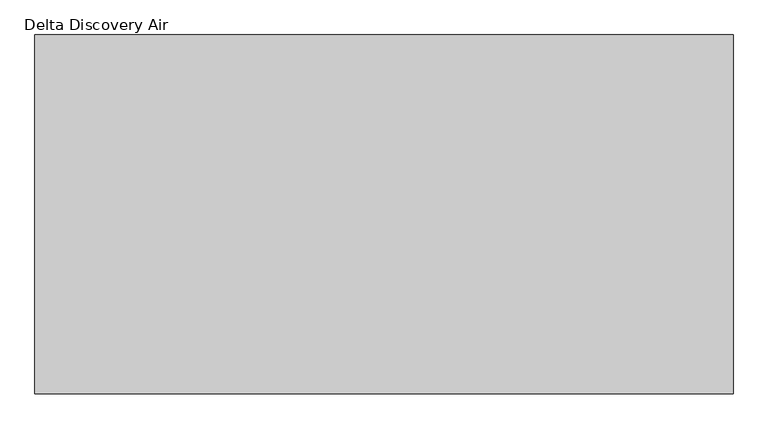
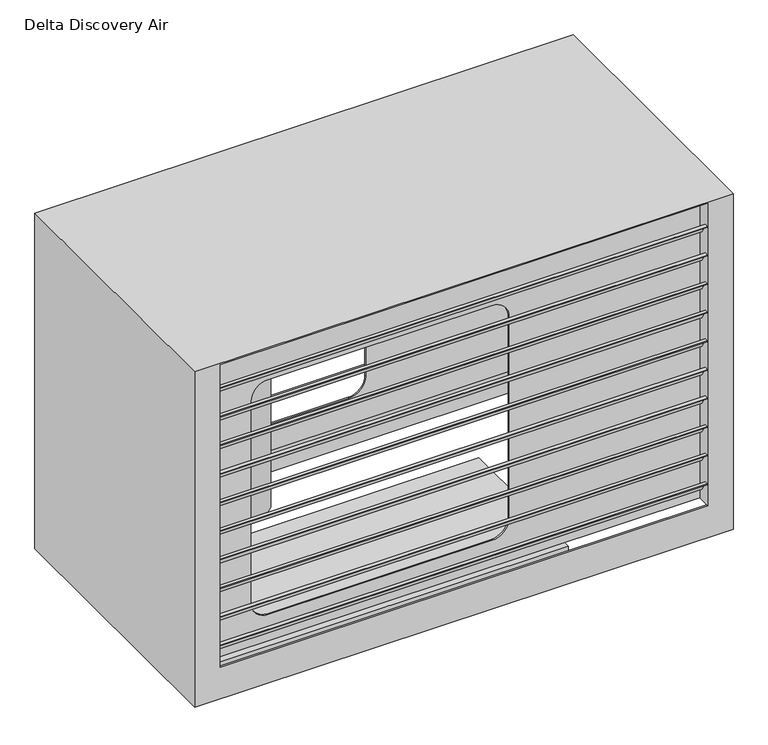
"""IFC4 building model written with IfcOpenShell, lengths in millimetres: unitary equipment geometry, M&G_5-_GM_WPB_Delta Discovery Air_BERSnl : Delta Discovery Air."""

from ifc_helpers import new_model, si_unit, point, frame, frame_2d, origin, place, context, project, spatial, polyline, circle_curve, trimmed, segment, composite_curve, outline, extrude, source, transform, mapped, element, save
from ifc_brep_helpers import plane_surface, revolved_surface, advanced_brep


def delta_discovery_air_bdbf6794(model_context):
    return source(origin(), model_context, "Body", "SolidModel", [
        extrude(outline(polyline([(-806.0, 996.057421), (-806.0, 998.057421), (-795.1452995, 998.057421), (-777.4452995, 967.4001217), (-767.8, 967.4001217), (-767.8, 965.4001217), (-778.6, 965.4001217), (-796.3, 996.057421), (-806.0, 996.057421)])), frame((-709.0, 0.0, 0.0), z_axis=(1.0, 0.0, 0.0), x_axis=(0.0, 1.0, 0.0)), (0.0, 0.0, 1.0), 1418.0),
        extrude(outline(polyline([(-806.0, 908.0193431), (-806.0, 910.0193431), (-795.1452995, 910.0193431), (-777.4452995, 879.3620438), (-767.8, 879.3620438), (-767.8, 877.3620438), (-778.6, 877.3620438), (-796.3, 908.0193431), (-806.0, 908.0193431)])), frame((-709.0, 0.0, 0.0), z_axis=(1.0, 0.0, 0.0), x_axis=(0.0, 1.0, 0.0)), (0.0, 0.0, 1.0), 1418.0),
        extrude(outline(polyline([(-806.0, 819.9812653), (-806.0, 821.9812653), (-795.1452995, 821.9812653), (-777.4452995, 791.323966), (-767.8, 791.323966), (-767.8, 789.323966), (-778.6, 789.323966), (-796.3, 819.9812653), (-806.0, 819.9812653)])), frame((-709.0, 0.0, 0.0), z_axis=(1.0, 0.0, 0.0), x_axis=(0.0, 1.0, 0.0)), (0.0, 0.0, 1.0), 1418.0),
        extrude(outline(polyline([(-806.0, 731.9431874), (-806.0, 733.9431874), (-795.1452995, 733.9431874), (-777.4452995, 703.2858881), (-767.8, 703.2858881), (-767.8, 701.2858881), (-778.6, 701.2858881), (-796.3, 731.9431874), (-806.0, 731.9431874)])), frame((-709.0, 0.0, 0.0), z_axis=(1.0, 0.0, 0.0), x_axis=(0.0, 1.0, 0.0)), (0.0, 0.0, 1.0), 1418.0),
        extrude(outline(polyline([(-806.0, 643.9051095), (-806.0, 645.9051095), (-795.1452995, 645.9051095), (-777.4452995, 615.2478102), (-767.8, 615.2478102), (-767.8, 613.2478102), (-778.6, 613.2478102), (-796.3, 643.9051095), (-806.0, 643.9051095)])), frame((-709.0, 0.0, 0.0), z_axis=(1.0, 0.0, 0.0), x_axis=(0.0, 1.0, 0.0)), (0.0, 0.0, 1.0), 1418.0),
        extrude(outline(polyline([(-806.0, 555.8670317), (-806.0, 557.8670317), (-795.1452995, 557.8670317), (-777.4452995, 527.2097324), (-767.8, 527.2097324), (-767.8, 525.2097324), (-778.6, 525.2097324), (-796.3, 555.8670317), (-806.0, 555.8670317)])), frame((-709.0, 0.0, 0.0), z_axis=(1.0, 0.0, 0.0), x_axis=(0.0, 1.0, 0.0)), (0.0, 0.0, 1.0), 1418.0),
        extrude(outline(polyline([(-806.0, 467.8289538), (-806.0, 469.8289538), (-795.1452995, 469.8289538), (-777.4452995, 439.1716545), (-767.8, 439.1716545), (-767.8, 437.1716545), (-778.6, 437.1716545), (-796.3, 467.8289538), (-806.0, 467.8289538)])), frame((-709.0, 0.0, 0.0), z_axis=(1.0, 0.0, 0.0), x_axis=(0.0, 1.0, 0.0)), (0.0, 0.0, 1.0), 1418.0),
        extrude(outline(polyline([(-806.0, 379.790876), (-806.0, 381.790876), (-795.1452995, 381.790876), (-777.4452995, 351.1335767), (-767.8, 351.1335767), (-767.8, 349.1335767), (-778.6, 349.1335767), (-796.3, 379.790876), (-806.0, 379.790876)])), frame((-709.0, 0.0, 0.0), z_axis=(1.0, 0.0, 0.0), x_axis=(0.0, 1.0, 0.0)), (0.0, 0.0, 1.0), 1418.0),
        extrude(outline(polyline([(-806.0, 1084.0954988), (-806.0, 1086.0954988), (-795.1452995, 1086.0954988), (-777.4452995, 1055.4381995), (-767.8, 1055.4381995), (-767.8, 1053.4381995), (-778.6, 1053.4381995), (-796.3, 1084.0954988), (-806.0, 1084.0954988)])), frame((-709.0, 0.0, 0.0), z_axis=(1.0, 0.0, 0.0), x_axis=(0.0, 1.0, 0.0)), (0.0, 0.0, 1.0), 1418.0),
        extrude(outline(polyline([(-38.2, 996.057421), (-38.2, 998.057421), (-27.3452995, 998.057421), (-9.6452995, 967.4001217), (0.0, 967.4001217), (0.0, 965.4001217), (-10.8, 965.4001217), (-28.5, 996.057421), (-38.2, 996.057421)])), frame((-709.0, 0.0, 0.0), z_axis=(1.0, 0.0, 0.0), x_axis=(0.0, 1.0, 0.0)), (0.0, 0.0, 1.0), 1418.0),
        extrude(outline(polyline([(-38.2, 908.0193431), (-38.2, 910.0193431), (-27.3452995, 910.0193431), (-9.6452995, 879.3620438), (0.0, 879.3620438), (0.0, 877.3620438), (-10.8, 877.3620438), (-28.5, 908.0193431), (-38.2, 908.0193431)])), frame((-709.0, 0.0, 0.0), z_axis=(1.0, 0.0, 0.0), x_axis=(0.0, 1.0, 0.0)), (0.0, 0.0, 1.0), 1418.0),
        extrude(outline(polyline([(-38.2, 819.9812653), (-38.2, 821.9812653), (-27.3452995, 821.9812653), (-9.6452995, 791.323966), (0.0, 791.323966), (0.0, 789.323966), (-10.8, 789.323966), (-28.5, 819.9812653), (-38.2, 819.9812653)])), frame((-709.0, 0.0, 0.0), z_axis=(1.0, 0.0, 0.0), x_axis=(0.0, 1.0, 0.0)), (0.0, 0.0, 1.0), 1418.0),
        extrude(outline(polyline([(-38.2, 731.9431874), (-38.2, 733.9431874), (-27.3452995, 733.9431874), (-9.6452995, 703.2858881), (0.0, 703.2858881), (0.0, 701.2858881), (-10.8, 701.2858881), (-28.5, 731.9431874), (-38.2, 731.9431874)])), frame((-709.0, 0.0, 0.0), z_axis=(1.0, 0.0, 0.0), x_axis=(0.0, 1.0, 0.0)), (0.0, 0.0, 1.0), 1418.0),
        extrude(outline(polyline([(-38.2, 643.9051095), (-38.2, 645.9051095), (-27.3452995, 645.9051095), (-9.6452995, 615.2478102), (0.0, 615.2478102), (0.0, 613.2478102), (-10.8, 613.2478102), (-28.5, 643.9051095), (-38.2, 643.9051095)])), frame((-709.0, 0.0, 0.0), z_axis=(1.0, 0.0, 0.0), x_axis=(0.0, 1.0, 0.0)), (0.0, 0.0, 1.0), 1418.0),
        extrude(outline(polyline([(-38.2, 555.8670317), (-38.2, 557.8670317), (-27.3452995, 557.8670317), (-9.6452995, 527.2097324), (0.0, 527.2097324), (0.0, 525.2097324), (-10.8, 525.2097324), (-28.5, 555.8670317), (-38.2, 555.8670317)])), frame((-709.0, 0.0, 0.0), z_axis=(1.0, 0.0, 0.0), x_axis=(0.0, 1.0, 0.0)), (0.0, 0.0, 1.0), 1418.0),
        extrude(outline(polyline([(-38.2, 467.8289538), (-38.2, 469.8289538), (-27.3452995, 469.8289538), (-9.6452995, 439.1716545), (0.0, 439.1716545), (0.0, 437.1716545), (-10.8, 437.1716545), (-28.5, 467.8289538), (-38.2, 467.8289538)])), frame((-709.0, 0.0, 0.0), z_axis=(1.0, 0.0, 0.0), x_axis=(0.0, 1.0, 0.0)), (0.0, 0.0, 1.0), 1418.0),
        extrude(outline(polyline([(-38.2, 379.790876), (-38.2, 381.790876), (-27.3452995, 381.790876), (-9.6452995, 351.1335767), (0.0, 351.1335767), (0.0, 349.1335767), (-10.8, 349.1335767), (-28.5, 379.790876), (-38.2, 379.790876)])), frame((-709.0, 0.0, 0.0), z_axis=(1.0, 0.0, 0.0), x_axis=(0.0, 1.0, 0.0)), (0.0, 0.0, 1.0), 1418.0),
        extrude(outline(polyline([(-38.2, 1084.0954988), (-38.2, 1086.0954988), (-27.3452995, 1086.0954988), (-9.6452995, 1055.4381995), (0.0, 1055.4381995), (0.0, 1053.4381995), (-10.8, 1053.4381995), (-28.5, 1084.0954988), (-38.2, 1084.0954988)])), frame((-709.0, 0.0, 0.0), z_axis=(1.0, 0.0, 0.0), x_axis=(0.0, 1.0, 0.0)), (0.0, 0.0, 1.0), 1418.0),
        extrude(outline(polyline([(-38.2, 291.7527981), (-38.2, 293.7527981), (-27.3452995, 293.7527981), (-9.6452995, 263.0954988), (0.0, 263.0954988), (0.0, 261.0954988), (-10.8, 261.0954988), (-28.5, 291.7527981), (-38.2, 291.7527981)])), frame((-709.0, 0.0, 0.0), z_axis=(1.0, 0.0, 0.0), x_axis=(0.0, 1.0, 0.0)), (0.0, 0.0, 1.0), 1418.0),
        extrude(outline(polyline([(-806.0, 291.7527981), (-806.0, 293.7527981), (-795.1452995, 293.7527981), (-777.4452995, 263.0954988), (-767.8, 263.0954988), (-767.8, 261.0954988), (-778.6, 261.0954988), (-796.3, 291.7527981), (-806.0, 291.7527981)])), frame((-709.0, 0.0, 0.0), z_axis=(1.0, 0.0, 0.0), x_axis=(0.0, 1.0, 0.0)), (0.0, 0.0, 1.0), 1418.0),
        extrude(outline(polyline([(-700.0, -293.0), (340.0, -293.0), (340.0, -743.0), (-700.0, -743.0), (-700.0, -293.0)])), frame((0.0, 0.0, 120.0954988), z_axis=(0.0, 0.0, 1.0), x_axis=(1.0, 0.0, 0.0)), (0.0, 0.0, 1.0), 72.0),
        advanced_brep(
        [(-784.0, 0.0, 1161.0954988), (-784.0, -806.0, 1161.0954988), (784.0, -806.0, 1161.0954988), (784.0, 0.0, 1161.0954988), (-710.0, -40.0, 226.0954988), (710.0, -40.0, 226.0954988), (710.0, -4.0, 226.0954988), (714.0, -4.0, 226.0954988), (714.0, -44.0, 226.0954988), (-714.0, -44.0, 226.0954988), (-714.0, -4.0, 226.0954988), (-710.0, -4.0, 226.0954988), (710.0, -766.0, 226.0954988), (-710.0, -766.0, 226.0954988), (-710.0, -802.0, 226.0954988), (-714.0, -802.0, 226.0954988), (-714.0, -762.0, 226.0954988), (714.0, -762.0, 226.0954988), (714.0, -802.0, 226.0954988), (710.0, -802.0, 226.0954988), (-784.0, 0.0, 128.0954988), (-784.0, -806.0, 128.0954988), (784.0, -806.0, 128.0954988), (710.0, -806.0, 1157.0954988), (710.0, -806.0, 226.0954988), (-710.0, -806.0, 226.0954988), (-710.0, -806.0, 1157.0954988), (784.0, 0.0, 128.0954988), (-710.0, -766.0, 1157.0954988), (710.0, -766.0, 1157.0954988), (-546.0, -766.0, 1030.0954988), (104.0, -766.0, 1030.0954988), (154.0, -766.0, 980.0954988), (154.0, -766.0, 357.0954988), (104.0, -766.0, 307.0954988), (-546.0, -766.0, 307.0954988), (-596.0, -766.0, 357.0954988), (-596.0, -766.0, 980.0954988), (710.0, 0.0, 226.0954988), (710.0, 0.0, 1157.0954988), (-710.0, 0.0, 1157.0954988), (-710.0, 0.0, 226.0954988), (710.0, -40.0, 1157.0954988), (-710.0, -40.0, 1157.0954988), (104.0, -40.0, 1030.0954988), (-546.0, -40.0, 1030.0954988), (-596.0, -40.0, 980.0954988), (-596.0, -40.0, 357.0954988), (-546.0, -40.0, 307.0954988), (104.0, -40.0, 307.0954988), (154.0, -40.0, 357.0954988), (154.0, -40.0, 980.0954988), (-780.0, -802.0, 128.0954988), (-780.0, -4.0, 128.0954988), (-780.0, -4.0, 1157.0954988), (-780.0, -802.0, 1157.0954988), (780.0, -4.0, 128.0954988), (780.0, -4.0, 1157.0954988), (714.0, -4.0, 1157.0954988), (-714.0, -4.0, 1157.0954988), (-714.0, -44.0, 1157.0954988), (714.0, -44.0, 1157.0954988), (-546.0, -44.0, 1030.0954988), (104.0, -44.0, 1030.0954988), (154.0, -44.0, 980.0954988), (154.0, -44.0, 357.0954988), (104.0, -44.0, 307.0954988), (-546.0, -44.0, 307.0954988), (-596.0, -44.0, 357.0954988), (-596.0, -44.0, 980.0954988), (780.0, -802.0, 128.0954988), (780.0, -802.0, 1157.0954988), (-714.0, -802.0, 1157.0954988), (714.0, -802.0, 1157.0954988), (714.0, -762.0, 1157.0954988), (-714.0, -762.0, 1157.0954988), (104.0, -762.0, 1030.0954988), (-546.0, -762.0, 1030.0954988), (-596.0, -762.0, 980.0954988), (-596.0, -762.0, 357.0954988), (-546.0, -762.0, 307.0954988), (104.0, -762.0, 307.0954988), (154.0, -762.0, 357.0954988), (154.0, -762.0, 980.0954988)],
        [
            (0, 1),
            (1, 2),
            (2, 3),
            (3, 0),
            (4, 5),
            (5, 6),
            (6, 7),
            (7, 8),
            (8, 9),
            (9, 10),
            (10, 11),
            (11, 4),
            (12, 13),
            (13, 14),
            (14, 15),
            (15, 16),
            (16, 17),
            (17, 18),
            (18, 19),
            (19, 12),
            (0, 20),
            (20, 21),
            (21, 1),
            (21, 22),
            (22, 2),
            (23, 24),
            (24, 25),
            (25, 26),
            (26, 23),
            (22, 27),
            (27, 3),
            (25, 14),
            (13, 28),
            (28, 26),
            (12, 29),
            (29, 28),
            (30, 31),
            (31, 32, circle_curve(frame((104.0, -766.0, 980.0954988), z_axis=(0.0, 1.0, 0.0), x_axis=(1.0, 0.0, 0.0)), 50.0)),
            (32, 33),
            (33, 34, circle_curve(frame((104.0, -766.0, 357.0954988), z_axis=(0.0, 1.0, 0.0), x_axis=(1.0, 0.0, 0.0)), 50.0)),
            (34, 35),
            (35, 36, circle_curve(frame((-546.0, -766.0, 357.0954988), z_axis=(0.0, 1.0, 0.0), x_axis=(1.0, 0.0, 0.0)), 50.0)),
            (36, 37),
            (37, 30, circle_curve(frame((-546.0, -766.0, 980.0954988), z_axis=(0.0, 1.0, 0.0), x_axis=(1.0, 0.0, 0.0)), 50.0)),
            (23, 29),
            (19, 24),
            (27, 20),
            (38, 39),
            (39, 40),
            (40, 41),
            (41, 38),
            (38, 6),
            (5, 42),
            (42, 39),
            (4, 43),
            (43, 42),
            (44, 45),
            (45, 46, circle_curve(frame((-546.0, -40.0, 980.0954988), z_axis=(0.0, -1.0, 0.0), x_axis=(1.0, 0.0, 0.0)), 50.0)),
            (46, 47),
            (47, 48, circle_curve(frame((-546.0, -40.0, 357.0954988), z_axis=(0.0, -1.0, 0.0), x_axis=(1.0, 0.0, 0.0)), 50.0)),
            (48, 49),
            (49, 50, circle_curve(frame((104.0, -40.0, 357.0954988), z_axis=(0.0, -1.0, 0.0), x_axis=(1.0, 0.0, 0.0)), 50.0)),
            (50, 51),
            (51, 44, circle_curve(frame((104.0, -40.0, 980.0954988), z_axis=(0.0, -1.0, 0.0), x_axis=(1.0, 0.0, 0.0)), 50.0)),
            (11, 41),
            (40, 43),
            (52, 53),
            (53, 54),
            (54, 55),
            (55, 52),
            (53, 56),
            (56, 57),
            (57, 58),
            (58, 7),
            (6, 11),
            (10, 59),
            (59, 54),
            (9, 60),
            (60, 59),
            (8, 61),
            (61, 60),
            (62, 63),
            (63, 64, circle_curve(frame((104.0, -44.0, 980.0954988), z_axis=(0.0, 1.0, 0.0), x_axis=(1.0, 0.0, 0.0)), 50.0)),
            (64, 65),
            (65, 66, circle_curve(frame((104.0, -44.0, 357.0954988), z_axis=(0.0, 1.0, 0.0), x_axis=(1.0, 0.0, 0.0)), 50.0)),
            (66, 67),
            (67, 68, circle_curve(frame((-546.0, -44.0, 357.0954988), z_axis=(0.0, 1.0, 0.0), x_axis=(1.0, 0.0, 0.0)), 50.0)),
            (68, 69),
            (69, 62, circle_curve(frame((-546.0, -44.0, 980.0954988), z_axis=(0.0, 1.0, 0.0), x_axis=(1.0, 0.0, 0.0)), 50.0)),
            (58, 61),
            (56, 70),
            (70, 71),
            (71, 57),
            (70, 52),
            (55, 72),
            (72, 15),
            (14, 19),
            (18, 73),
            (73, 71),
            (17, 74),
            (74, 73),
            (16, 75),
            (75, 74),
            (76, 77),
            (77, 78, circle_curve(frame((-546.0, -762.0, 980.0954988), z_axis=(0.0, -1.0, 0.0), x_axis=(1.0, 0.0, 0.0)), 50.0)),
            (78, 79),
            (79, 80, circle_curve(frame((-546.0, -762.0, 357.0954988), z_axis=(0.0, -1.0, 0.0), x_axis=(1.0, 0.0, 0.0)), 50.0)),
            (80, 81),
            (81, 82, circle_curve(frame((104.0, -762.0, 357.0954988), z_axis=(0.0, -1.0, 0.0), x_axis=(1.0, 0.0, 0.0)), 50.0)),
            (82, 83),
            (83, 76, circle_curve(frame((104.0, -762.0, 980.0954988), z_axis=(0.0, -1.0, 0.0), x_axis=(1.0, 0.0, 0.0)), 50.0)),
            (72, 75),
            (44, 63),
            (62, 45),
            (76, 31),
            (30, 77),
            (69, 46),
            (37, 78),
            (68, 47),
            (36, 79),
            (67, 48),
            (35, 80),
            (66, 49),
            (34, 81),
            (65, 50),
            (33, 82),
            (64, 51),
            (32, 83),
        ],
        [
            plane_surface(frame((-784.0, -806.0, 1161.0954988), z_axis=(0.0, 0.0, 1.0), x_axis=(0.0, -1.0, 0.0))),
            plane_surface(frame((-784.0, -806.0, 226.0954988), z_axis=(0.0, 0.0, -1.0), x_axis=(0.0, 1.0, 0.0))),
            plane_surface(frame((-784.0, 0.0, 1161.0954988), z_axis=(-1.0, 0.0, 0.0), x_axis=(0.0, 0.0, -1.0))),
            plane_surface(frame((710.0, -806.0, 1161.0954988), z_axis=(0.0, -1.0, 0.0), x_axis=(0.0, 0.0, -1.0))),
            plane_surface(frame((784.0, -806.0, 1161.0954988), z_axis=(1.0, 0.0, 0.0), x_axis=(0.0, 0.0, -1.0))),
            plane_surface(frame((-710.0, -806.0, 1161.0954988), z_axis=(1.0, 0.0, 0.0), x_axis=(0.0, 0.0, -1.0))),
            plane_surface(frame((-710.0, -766.0, 1161.0954988), z_axis=(0.0, -1.0, 0.0), x_axis=(0.0, 0.0, -1.0))),
            plane_surface(frame((710.0, -766.0, 1161.0954988), z_axis=(-1.0, 0.0, 0.0), x_axis=(0.0, 0.0, -1.0))),
            plane_surface(frame((784.0, 0.0, 1161.0954988), z_axis=(0.0, 1.0, 0.0), x_axis=(0.0, 0.0, -1.0))),
            plane_surface(frame((710.0, 0.0, 1161.0954988), z_axis=(-1.0, 0.0, 0.0), x_axis=(0.0, 0.0, -1.0))),
            plane_surface(frame((710.0, -40.0, 1161.0954988), z_axis=(0.0, 1.0, 0.0), x_axis=(0.0, 0.0, -1.0))),
            plane_surface(frame((-710.0, -40.0, 1161.0954988), z_axis=(1.0, 0.0, 0.0), x_axis=(0.0, 0.0, -1.0))),
            plane_surface(frame((-780.0, -802.0, 1161.0954988), z_axis=(1.0, 0.0, 0.0), x_axis=(0.0, 0.0, -1.0))),
            plane_surface(frame((-780.0, -4.0, 1161.0954988), z_axis=(0.0, -1.0, 0.0), x_axis=(0.0, 0.0, -1.0))),
            plane_surface(frame((-714.0, -4.0, 1161.0954988), z_axis=(-1.0, 0.0, 0.0), x_axis=(0.0, 0.0, -1.0))),
            plane_surface(frame((-714.0, -44.0, 1161.0954988), z_axis=(0.0, -1.0, 0.0), x_axis=(0.0, 0.0, -1.0))),
            plane_surface(frame((714.0, -44.0, 1161.0954988), z_axis=(1.0, 0.0, 0.0), x_axis=(0.0, 0.0, -1.0))),
            plane_surface(frame((780.0, -4.0, 1161.0954988), z_axis=(-1.0, 0.0, 0.0), x_axis=(0.0, 0.0, -1.0))),
            plane_surface(frame((780.0, -802.0, 1161.0954988), z_axis=(0.0, 1.0, 0.0), x_axis=(0.0, 0.0, -1.0))),
            plane_surface(frame((714.0, -802.0, 1161.0954988), z_axis=(1.0, 0.0, 0.0), x_axis=(0.0, 0.0, -1.0))),
            plane_surface(frame((714.0, -762.0, 1161.0954988), z_axis=(0.0, 1.0, 0.0), x_axis=(0.0, 0.0, -1.0))),
            plane_surface(frame((-714.0, -762.0, 1161.0954988), z_axis=(-1.0, 0.0, 0.0), x_axis=(0.0, 0.0, -1.0))),
            plane_surface(frame((104.0, -973.4559026, 1030.0954988), z_axis=(0.0, 0.0, -1.0), x_axis=(0.0, 1.0, 0.0))),
            revolved_surface(polyline([(-496.0, -44.0, 980.0954988), (-496.0, -40.0, 980.0954988)]), (-546.0, 100.0, 980.0954988), (0.0, -1.0, 0.0)),
            revolved_surface(polyline([(-496.0, -766.0, 980.0954988), (-496.0, -762.0, 980.0954988)]), (-546.0, 100.0, 980.0954988), (0.0, -1.0, 0.0)),
            plane_surface(frame((-596.0, -973.4559026, 980.0954988), z_axis=(1.0, 0.0, 0.0), x_axis=(0.0, 1.0, 0.0))),
            revolved_surface(polyline([(-496.0, -44.0, 357.0954988), (-496.0, -40.0, 357.0954988)]), (-546.0, 100.0, 357.0954988), (0.0, -1.0, 0.0)),
            revolved_surface(polyline([(-496.0, -766.0, 357.0954988), (-496.0, -762.0, 357.0954988)]), (-546.0, 100.0, 357.0954988), (0.0, -1.0, 0.0)),
            plane_surface(frame((-546.0, -973.4559026, 307.0954988), z_axis=(0.0, 0.0, 1.0), x_axis=(0.0, 1.0, 0.0))),
            revolved_surface(polyline([(154.0, -44.0, 357.0954988), (154.0, -40.0, 357.0954988)]), (104.0, 100.0, 357.0954988), (0.0, -1.0, 0.0)),
            revolved_surface(polyline([(154.0, -766.0, 357.0954988), (154.0, -762.0, 357.0954988)]), (104.0, 100.0, 357.0954988), (0.0, -1.0, 0.0)),
            plane_surface(frame((154.0, -973.4559026, 357.0954988), z_axis=(-1.0, 0.0, 0.0), x_axis=(0.0, 1.0, 0.0))),
            revolved_surface(polyline([(154.0, -44.0, 980.0954988), (154.0, -40.0, 980.0954988)]), (104.0, 100.0, 980.0954988), (0.0, -1.0, 0.0)),
            revolved_surface(polyline([(154.0, -766.0, 980.0954988), (154.0, -762.0, 980.0954988)]), (104.0, 100.0, 980.0954988), (0.0, -1.0, 0.0)),
            plane_surface(frame((-784.0, 0.0, 1157.0954988), z_axis=(0.0, 0.0, -1.0), x_axis=(1.0, 0.0, 0.0))),
            plane_surface(frame((-784.0, -806.0, 128.0954988), z_axis=(0.0, 0.0, -1.0), x_axis=(0.0, 1.0, 0.0))),
            plane_surface(frame((-784.0, -806.0, 226.0954988), z_axis=(0.0, 0.0, 1.0), x_axis=(0.0, -1.0, 0.0))),
        ],
        [
            (0, [[1, 2, 3, 4]]),
            (1, [[5, 6, 7, 8, 9, 10, 11, 12]]),
            (1, [[13, 14, 15, 16, 17, 18, 19, 20]]),
            (2, [[-1, 21, 22, 23]]),
            (3, [[-23, 24, 25, -2], [26, 27, 28, 29]]),
            (4, [[-3, -25, 30, 31]]),
            (5, [[-28, 32, -14, 33, 34]]),
            (6, [[-13, 35, 36, -33], [37, 38, 39, 40, 41, 42, 43, 44]]),
            (7, [[-26, 45, -35, -20, 46]]),
            (8, [[-31, 47, -21, -4], [48, 49, 50, 51]]),
            (9, [[-48, 52, -6, 53, 54]]),
            (10, [[-5, 55, 56, -53], [57, 58, 59, 60, 61, 62, 63, 64]]),
            (11, [[-55, -12, 65, -50, 66]]),
            (12, [[67, 68, 69, 70]]),
            (13, [[-68, 71, 72, 73, 74, -7, 75, -11, 76, 77]]),
            (14, [[-10, 78, 79, -76]]),
            (15, [[-9, 80, 81, -78], [82, 83, 84, 85, 86, 87, 88, 89]]),
            (16, [[-8, -74, 90, -80]]),
            (17, [[-72, 91, 92, 93]]),
            (18, [[-92, 94, -70, 95, 96, -15, 97, -19, 98, 99]]),
            (19, [[-18, 100, 101, -98]]),
            (20, [[-17, 102, 103, -100], [104, 105, 106, 107, 108, 109, 110, 111]]),
            (21, [[-16, -96, 112, -102]]),
            (22, [[113, -82, 114, -57]]),
            (22, [[115, -37, 116, -104]]),
            (23, [[-114, -89, 117, -58]]),
            (24, [[-116, -44, 118, -105]]),
            (25, [[-117, -88, 119, -59]]),
            (25, [[-118, -43, 120, -106]]),
            (26, [[-119, -87, 121, -60]]),
            (27, [[-120, -42, 122, -107]]),
            (28, [[-121, -86, 123, -61]]),
            (28, [[-122, -41, 124, -108]]),
            (29, [[-123, -85, 125, -62]]),
            (30, [[-124, -40, 126, -109]]),
            (31, [[-125, -84, 127, -63]]),
            (31, [[-126, -39, 128, -110]]),
            (32, [[-113, -64, -127, -83]]),
            (33, [[-115, -111, -128, -38]]),
            (34, [[-29, -34, -36, -45]]),
            (34, [[-49, -54, -56, -66]]),
            (34, [[-69, -77, -79, -81, -90, -73, -93, -99, -101, -103, -112, -95]]),
            (35, [[-47, -30, -24, -22], [-94, -91, -71, -67]]),
            (36, [[-27, -46, -97, -32]]),
            (36, [[-51, -65, -75, -52]]),
        ],
    ),
        extrude(outline(composite_curve([segment(trimmed(circle_curve(frame_2d((-268.0, -185.5)), 55.0), [point((-213.0, -185.5))], [point((-323.0, -185.5))], False, "CARTESIAN"), True, "CONTINUOUS"), segment(trimmed(circle_curve(frame_2d((-268.0, -185.5)), 55.0), [point((-323.0, -185.5))], [point((-213.0, -185.5))], False, "CARTESIAN"), True, "CONTINUOUS")], self_intersect=False)), frame((0.0, 0.0, 192.0954988), z_axis=(0.0, 0.0, 1.0), x_axis=(1.0, 0.0, 0.0)), (0.0, 0.0, 1.0), 965.0),
        extrude(outline(composite_curve([segment(trimmed(circle_curve(frame_2d((-438.0, -185.5)), 100.0), [point((-338.0, -185.5))], [point((-538.0, -185.5))], False, "CARTESIAN"), True, "CONTINUOUS"), segment(trimmed(circle_curve(frame_2d((-438.0, -185.5)), 100.0), [point((-538.0, -185.5))], [point((-338.0, -185.5))], False, "CARTESIAN"), True, "CONTINUOUS")], self_intersect=False)), frame((0.0, 0.0, 192.0954988), z_axis=(0.0, 0.0, 1.0), x_axis=(1.0, 0.0, 0.0)), (0.0, 0.0, 1.0), 320.0),
    ])


if __name__ == "__main__":
    model = new_model("IFC4")
    model_context = context("Model", 3, world=origin())
    ifc_project = project(units=[si_unit("LENGTHUNIT", "METRE", prefix="MILLI")], contexts=[model_context])
    site = spatial("IfcSite", under=ifc_project)
    building = spatial("IfcBuilding", under=site)
    placement = place(None, origin())
    delta_discovery_air_shape = delta_discovery_air_bdbf6794(model_context)
    element("IfcUnitaryEquipment", 1, ObjectType="M&G_5-_GM_WPB_Delta Discovery Air_BERSnl : Delta Discovery Air", at=placement, inside=building, context=model_context, shape_type="MappedRepresentation", body=[
        mapped(delta_discovery_air_shape, transform((0.0, 0.0, 0.0), x_axis=(1.0, 0.0, 0.0), y_axis=(0.0, 1.0, 0.0), z_axis=(0.0, 0.0, 1.0))),
    ])
    save(model, "model.ifc")
